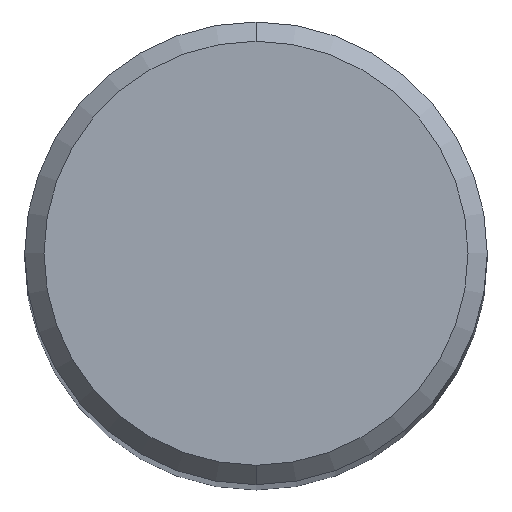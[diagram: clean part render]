
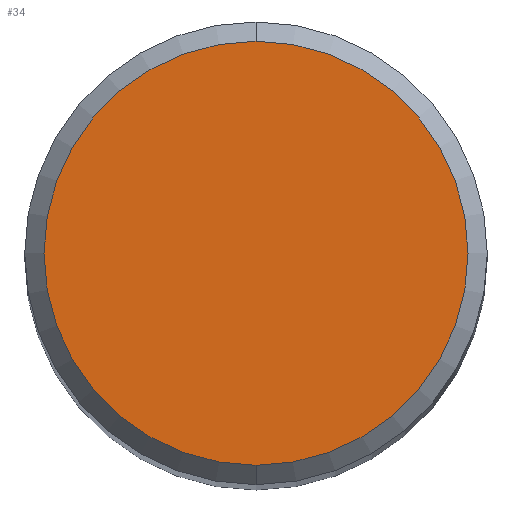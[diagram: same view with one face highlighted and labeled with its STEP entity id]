
A CAD part, top view. The second image highlights one B-rep face of the part: STEP entity #34.
In plain terms, the highlighted planar face has unit normal (0, 0, 1).
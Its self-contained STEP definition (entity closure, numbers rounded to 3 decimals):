
#31=PLANE('',#148);
#34=ADVANCED_FACE('',(#42),#31,.T.);
#42=FACE_OUTER_BOUND('',#50,.F.);
#50=EDGE_LOOP('',(#61,#62));
#61=ORIENTED_EDGE('',*,*,#114,.F.);
#62=ORIENTED_EDGE('',*,*,#111,.F.);
#111=EDGE_CURVE('',#132,#131,#125,.T.);
#114=EDGE_CURVE('',#131,#132,#128,.T.);
#125=CIRCLE('',#143,2.75);
#128=CIRCLE('',#146,2.75);
#131=VERTEX_POINT('',#201);
#132=VERTEX_POINT('',#202);
#143=AXIS2_PLACEMENT_3D('',#211,#166,#167);
#146=AXIS2_PLACEMENT_3D('',#214,#172,#173);
#148=AXIS2_PLACEMENT_3D('',#222,#182,#183);
#166=DIRECTION('',(0.,0.,1.));
#167=DIRECTION('',(0.,1.,0.));
#172=DIRECTION('',(0.,0.,1.));
#173=DIRECTION('',(0.,-1.,0.));
#182=DIRECTION('',(0.,0.,1.));
#183=DIRECTION('',(-1.,0.,0.));
#201=CARTESIAN_POINT('',(-5.5,42.05,163.55));
#202=CARTESIAN_POINT('',(-5.5,47.55,163.55));
#211=CARTESIAN_POINT('',(-5.5,44.8,163.55));
#214=CARTESIAN_POINT('',(-5.5,44.8,163.55));
#222=CARTESIAN_POINT('',(-2.5,47.8,163.55));
